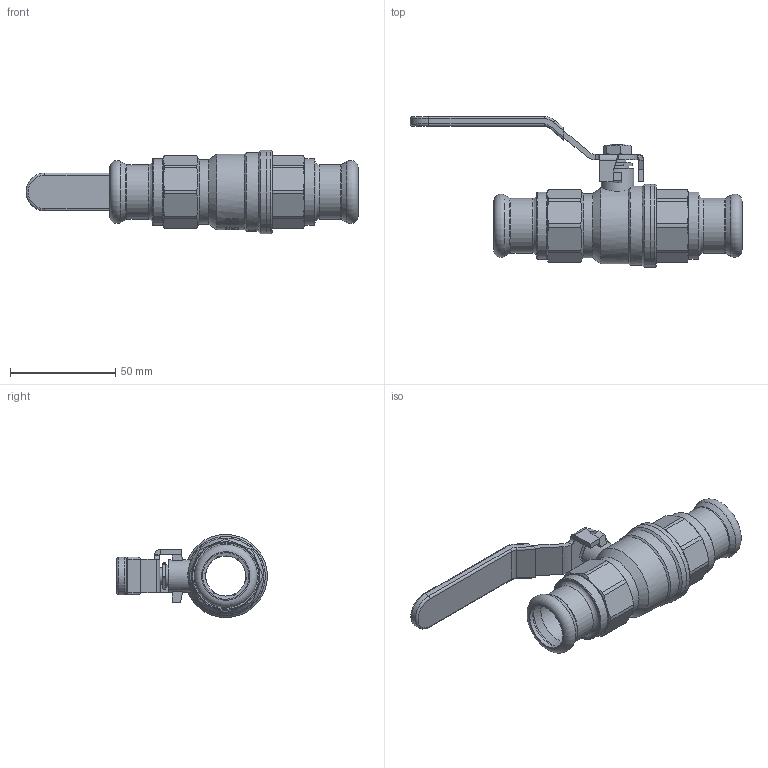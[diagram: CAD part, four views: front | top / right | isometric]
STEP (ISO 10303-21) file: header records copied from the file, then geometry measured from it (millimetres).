
FILE_DESCRIPTION((''),'2;1');
FILE_NAME('P:\Fastrack\53972_CRANE 3D\Press Fit\D171APF\D171A-PF\D171A-PF-22MM\D171A-PF-22MM.stp','2012-01-18T10:01:17',('dcole'),(''),'Autodesk Inventor 2008','Autodesk Inventor 2008','');
FILE_SCHEMA(('AUTOMOTIVE_DESIGN { 1 0 10303 214 1 1 1 1 }'));
Length unit declared in the file: millimetre
Products named in the file (1): Part35
Bounding box: 157.6 x 71.55 x 39.5 mm (x, y, z)
Volume: 60487.5 mm3; surface area: 38874.8 mm2
Topology: 1 solids, 13 shells, 610 faces, 1874 edges, 1385 vertices
Faces by surface type: plane 290, cylinder 123, bspline 91, cone 79, torus 24, sphere 3
Full cylindrical faces by diameter (mm): 2 x2, 8 x1, 8.1 x2, 8.3 x1, 9 x1, 9.5 x1, 10.5 x1, 10.6 x1, 10.75 x1, 15.5 x1, 17 x1, 19.6 x1, 20 x4, 22 x4, 23.5 x2, 24.117 x2, 26 x4, 27 x4, 27.45 x2, 30.5 x1, 31.8 x2, 32.5 x1, 34 x1, 34.2 x1, 36 x1, 37.5 x1, 39.5 x2
Entity records: 43984 total; most frequent: CARTESIAN_POINT 28022, ORIENTED_EDGE 3410, DIRECTION 2688, EDGE_CURVE 1705, VERTEX_POINT 1331, AXIS2_PLACEMENT_3D 961, EDGE_LOOP 864, VECTOR 766
